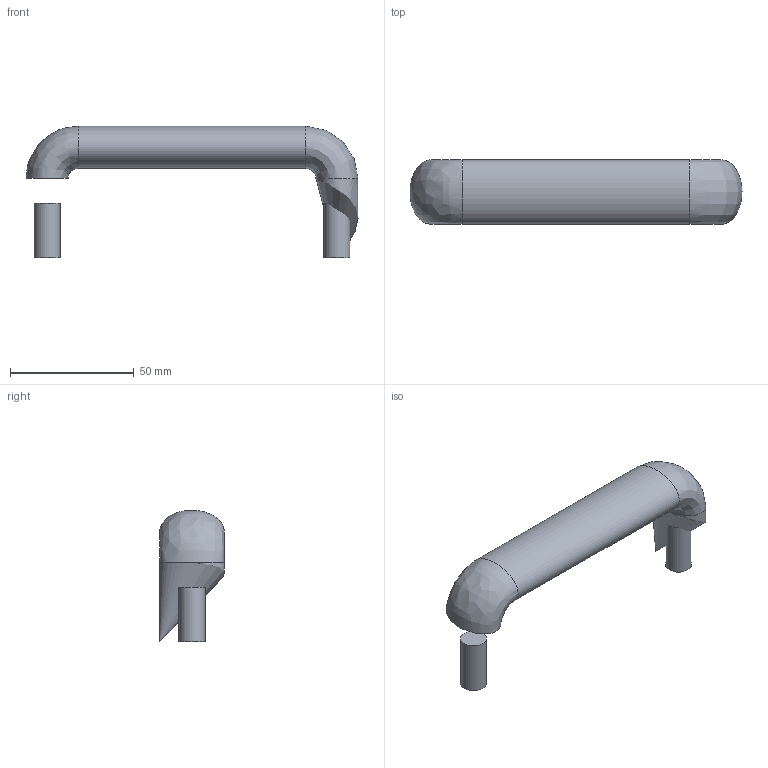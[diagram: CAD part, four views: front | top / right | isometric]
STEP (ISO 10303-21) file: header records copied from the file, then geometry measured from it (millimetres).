
FILE_DESCRIPTION( ('This file contains a STEP AP42 implementation' ,'as created by ZW3D STEP Interface translator.') ,'2;1' );
FILE_NAME( 'U.50_150.stp' ,'26 423.10 039', (''), ('ZWCAD Software Co.'), 'Version 1.0', 'ZW3D to STEP translator', '' );
FILE_SCHEMA(('AP242_MANAGED_MODEL_BASED_3D_ENGINEERING_MIM_LF { 1 0 10303 442 1 1 4 }'));
Length unit declared in the file: millimetre
Products named in the file (1): 0
Bounding box: 133.99 x 26 x 52.99 mm (x, y, z)
Volume: 58587.3 mm3; surface area: 15531.5 mm2
Topology: 5 solids, 5 shells, 25 faces, 38 edges, 23 vertices
Faces by surface type: plane 8, cylinder 8, bspline 5, cone 4
Full cylindrical faces by diameter (mm): 6.8 x4, 10.5 x4
Entity records: 736 total; most frequent: CARTESIAN_POINT 242, DIRECTION 97, ORIENTED_EDGE 78, AXIS2_PLACEMENT_3D 41, EDGE_CURVE 39, EDGE_LOOP 29, FACE_OUTER_BOUND 25, ADVANCED_FACE 25
